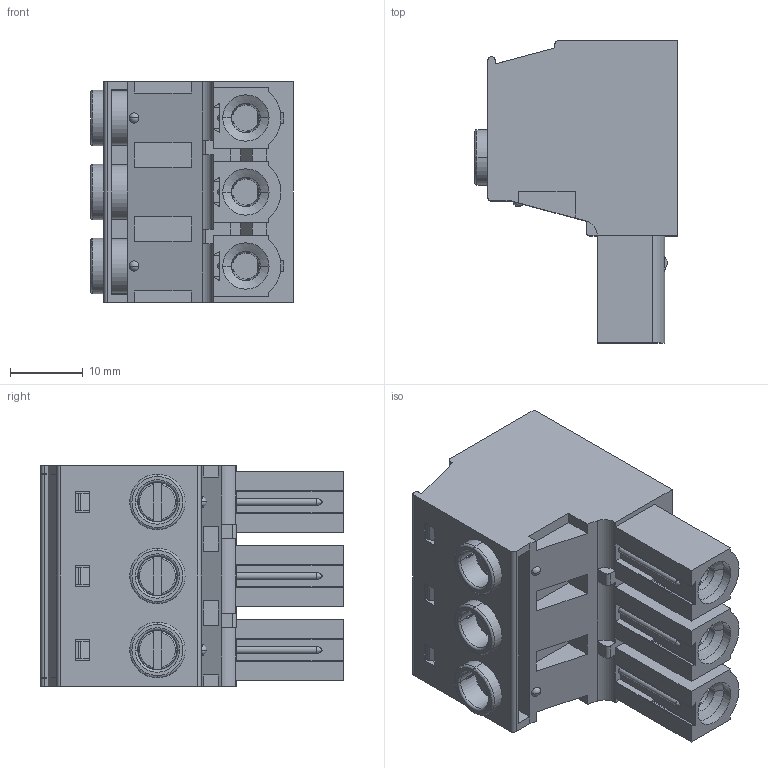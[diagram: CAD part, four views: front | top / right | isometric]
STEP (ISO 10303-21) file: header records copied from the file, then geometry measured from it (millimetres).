
FILE_DESCRIPTION((''),'2;1');
FILE_NAME('PRT0002','2021-01-08T',('renkang.li'),(''),'CREO PARAMETRIC BY PTC INC, 2016260','CREO PARAMETRIC BY PTC INC, 2016260','');
FILE_SCHEMA(('CONFIG_CONTROL_DESIGN'));
Products named in the file (1): PRT0002
Bounding box: 27.8 x 41.5 x 30.32 mm (x, y, z)
Volume: 11415.6 mm3; surface area: 22015.8 mm2
Topology: 1 solids, 1 shells, 1746 faces, 5081 edges, 3244 vertices
Faces by surface type: plane 888, cylinder 483, bspline 175, torus 115, cone 63, sphere 22
Entity records: 74818 total; most frequent: CARTESIAN_POINT 29895, ORIENTED_EDGE 10100, DIRECTION 8505, EDGE_CURVE 5050, VERTEX_POINT 3244, VECTOR 3163, LINE 3163, AXIS2_PLACEMENT_3D 2671
